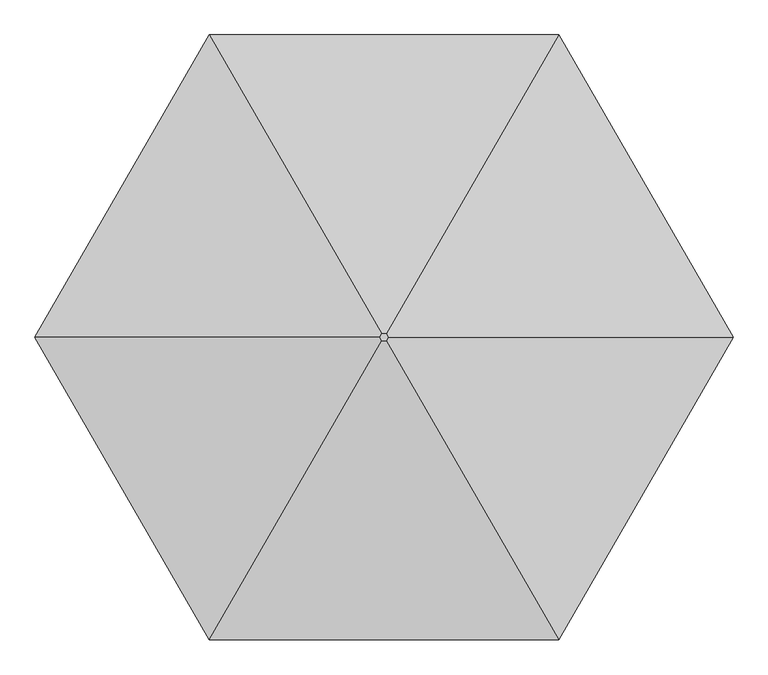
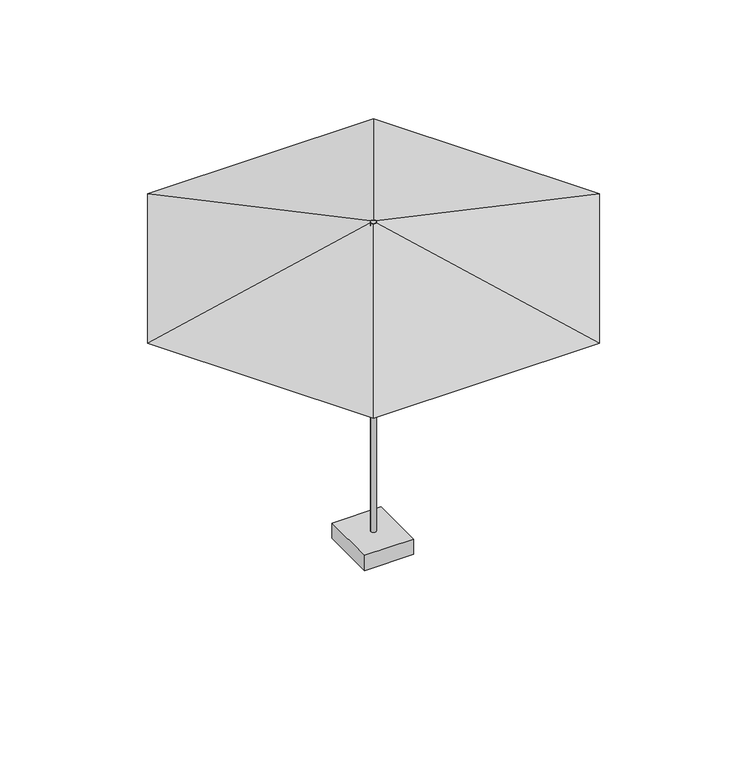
"""IFC4 building model written with IfcOpenShell, lengths in millimetres: furniture geometry, Fixierte Ausstattung Sonnenschutz : Sonnenschutz."""

from ifc_helpers import new_model, si_unit, point, frame, origin, origin_with_axes, origin_2d, place, context, project, spatial, polyline, circle_curve, trimmed, segment, composite_curve, outline, extrude, faceted_brep, source, transform, mapped, element, save


def furniture_a2e2619c(model_context):
    return source(origin(), model_context, "Body", "SolidModel", [
        extrude(outline(polyline([(-138.3045582, 153.9450414), (131.4691377, 153.9450414), (131.4691377, -155.5517032), (-138.3045582, -155.5517032), (-138.3045582, 153.9450414)])), frame((0.0, 0.0, -89.2882707), z_axis=(0.0, 0.0, 1.0), x_axis=(1.0, 0.0, 0.0)), (0.0, 0.0, 1.0), 89.2882707),
        faceted_brep([(7.5, -12.9903811, 1800.0), (15.0, 0.0, 1800.0), (7.5, 12.9903811, 1800.0), (-7.5, 12.9903811, 1800.0), (-15.0, 0.0, 1800.0), (-7.5, -12.9903811, 1800.0), (622.3835902, -1078.0, 1528.1307688), (-622.3835902, -1078.0, 1528.1307688), (-1244.7671804, 0.0, 1528.1307688), (-622.3835902, 1078.0, 1528.1307688), (622.3835902, 1078.0, 1528.1307688), (1244.7671804, 0.0, 1528.1307688)], [[[0, 1, 2, 3, 4, 5]], [[6, 7, 8, 9, 10, 11]], [[6, 0, 5, 7]], [[7, 5, 4, 8]], [[8, 4, 3, 9]], [[9, 3, 2, 10]], [[10, 2, 1, 11]], [[11, 1, 0, 6]]]),
        extrude(outline(composite_curve([segment(trimmed(circle_curve(origin_2d(), 15.0), [point((-15.0, 0.0))], [point((15.0, 0.0))], False, "CARTESIAN"), True, "CONTINUOUS"), segment(trimmed(circle_curve(origin_2d(), 15.0), [point((15.0, 0.0))], [point((-15.0, 0.0))], False, "CARTESIAN"), True, "CONTINUOUS")], self_intersect=False)), origin_with_axes(), (0.0, 0.0, 1.0), 1800.0),
    ])


if __name__ == "__main__":
    model = new_model("IFC4")
    model_context = context("Model", 3, world=origin())
    ifc_project = project(units=[si_unit("LENGTHUNIT", "METRE", prefix="MILLI")], contexts=[model_context])
    site = spatial("IfcSite", under=ifc_project)
    building = spatial("IfcBuilding", under=site)
    placement = place(None, origin())
    furniture_shape = furniture_a2e2619c(model_context)
    element("IfcFurniture", 1, ObjectType="Fixierte Ausstattung Sonnenschutz : Sonnenschutz", at=placement, inside=building, context=model_context, shape_type="MappedRepresentation", body=[
        mapped(furniture_shape, transform((0.0, 0.0, 0.0), x_axis=(1.0, 0.0, 0.0), y_axis=(0.0, 1.0, 0.0), z_axis=(0.0, 0.0, 1.0))),
    ])
    save(model, "model.ifc")
